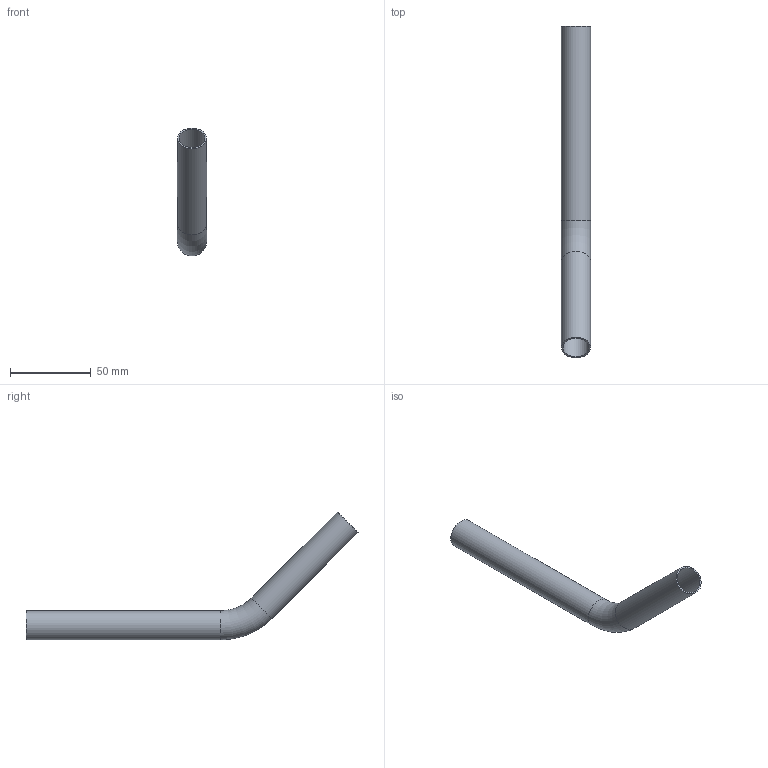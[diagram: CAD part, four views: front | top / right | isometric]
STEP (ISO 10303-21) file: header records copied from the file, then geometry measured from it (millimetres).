
FILE_DESCRIPTION(('STEP AP203'), '1');
FILE_NAME('ÂÐ.747111.008 - VTi.955.I.451818 Îòâîä 45 ãð. d18 (90õ135)', '', ('UNSPECIFIED'), ('UNSPECIFIED'), 'C3D Converter', 'C3D Toolkit', '');
FILE_SCHEMA(('CONFIG_CONTROL_DESIGN'));
Length unit declared in the file: millimetre
Products named in the file (1): ВР.747111.008
Bounding box: 18 x 205 x 79 mm (x, y, z)
Volume: 11933.9 mm3; surface area: 23974.5 mm2
Topology: 1 solids, 1 shells, 8 faces, 14 edges, 8 vertices
Faces by surface type: cylinder 4, torus 2, plane 2
Full cylindrical faces by diameter (mm): 16 x2, 18 x2
Entity records: 208 total; most frequent: DIRECTION 34, CARTESIAN_POINT 25, AXIS2_PLACEMENT_3D 17, EDGE_LOOP 16, ORIENTED_EDGE 16, FACE_OUTER_BOUND 12, ADVANCED_FACE 8, EDGE_CURVE 8
